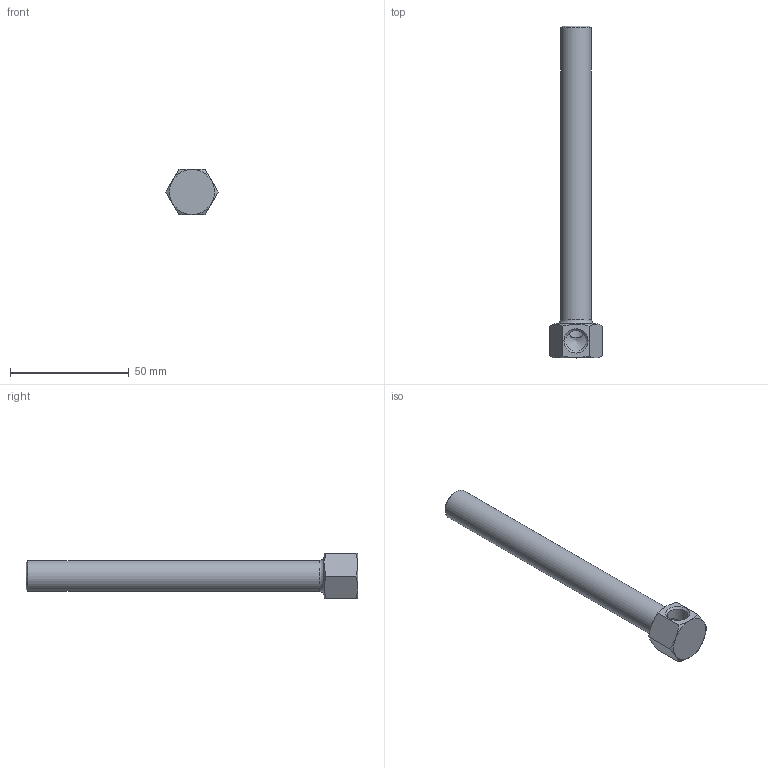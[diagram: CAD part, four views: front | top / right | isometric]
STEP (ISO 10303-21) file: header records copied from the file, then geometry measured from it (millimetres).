
FILE_DESCRIPTION(/* description */ (''),/* implementation_level */ '2;1');
FILE_NAME(/* name */ 'C:/Users/drich/Desktop/1814B-5-1_2 v1.step',/* time_stamp */ '2019-12-29T15:30:19-06:00',/* author */ (''),/* organization */ (''),/* preprocessor_version */ 'ST-DEVELOPER v18',/* originating_system */ 'Autodesk Translation Framework v8.12.0.6',/* authorisation */ '');
FILE_SCHEMA (('AUTOMOTIVE_DESIGN { 1 0 10303 214 3 1 1 }'));
Length unit declared in the file: inch
Products named in the file (1): 1814B-5-1_2
Bounding box: 22 x 139.7 x 19.05 mm (x, y, z)
Volume: 12729.5 mm3; surface area: 10380.8 mm2
Topology: 1 solids, 1 shells, 22 faces, 57 edges, 37 vertices
Faces by surface type: plane 9, cone 8, cylinder 4, torus 1
Full cylindrical faces by diameter (mm): 8.707 x1, 8.712 x1, 13.032 x1
Entity records: 801 total; most frequent: CARTESIAN_POINT 256, ORIENTED_EDGE 112, DIRECTION 100, EDGE_CURVE 56, AXIS2_PLACEMENT_3D 42, VERTEX_POINT 37, EDGE_LOOP 25, FACE_OUTER_BOUND 22
